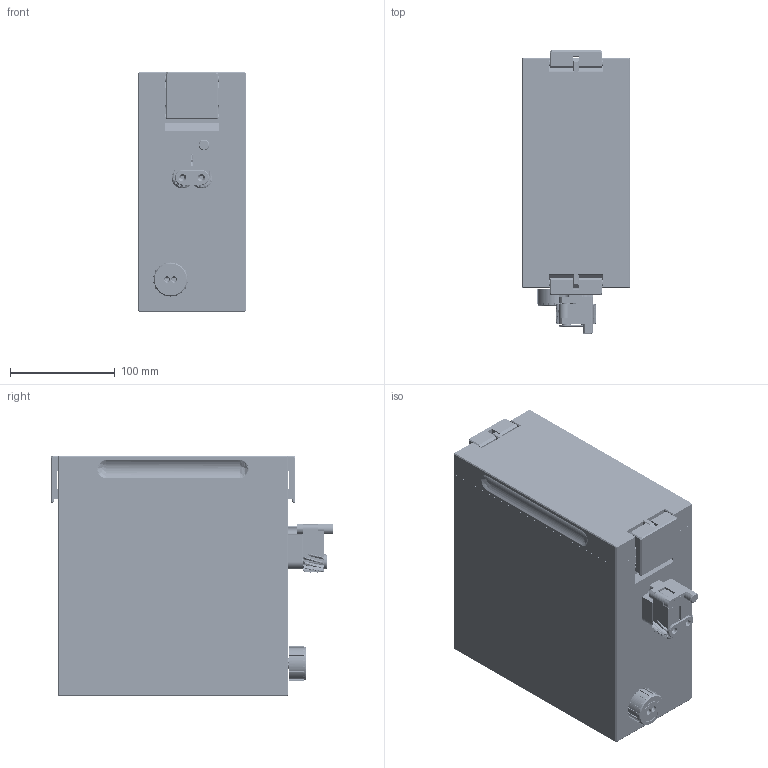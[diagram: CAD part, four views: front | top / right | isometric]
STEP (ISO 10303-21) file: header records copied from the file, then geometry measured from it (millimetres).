
FILE_DESCRIPTION(/* description */ (''),/* implementation_level */ '2;1');
FILE_NAME(/* name */ 'E:/Mihai/3D Printing/My Designs/Drikea filament box/Box v184.step',/* time_stamp */ '2021-08-17T12:55:25+03:00',/* author */ (''),/* organization */ (''),/* preprocessor_version */ 'ST-DEVELOPER v18.1',/* originating_system */ 'Autodesk Translation Framework v10.9.0.1377',/* authorisation */ '');
FILE_SCHEMA (('AUTOMOTIVE_DESIGN { 1 0 10303 214 3 1 1 }'));
Products named in the file (38): Box; Hinge; lid; Tee arm; Rollers; Pipeline; Box_1; base; lid_1; lid without hygrometer; Pipeline_1; Box(Mirror)(Mirror); base(Mirror)(Mirror); lid(Mirror)(Mirror); Pipeline_2; Box(Mirror) (1); base(Mirror) (1); lid(Mirror) (1); Pipeline_3; Box(Mirror); base(Mirror); lid(Mirror); Rollers(Mirror); Tee arm(Mirror); Lower rollers; rewind; valve; airlock left; airlock right; lock; Pipeline_4; Box_2; base_1; lid_2; Base_2; Hinge(Mirror); Festo_Pneumatic_Coupling_PC4-M10 v1; Label lines
Assembly tree (37 placements, depth 5):
  Box
    Hinge
    lid
      Tee arm
      Rollers
      Pipeline
        Box_1
          base
          lid_1
      lid without hygrometer
      Pipeline_1
        Box(Mirror)(Mirror)
          base(Mirror)(Mirror)
          lid(Mirror)(Mirror)
      Pipeline_2
        Box(Mirror) (1)
          base(Mirror) (1)
          lid(Mirror) (1)
      Pipeline_3
        Box(Mirror)
          base(Mirror)
          lid(Mirror)
      Rollers(Mirror)
      Tee arm(Mirror)
    Lower rollers
    rewind
    valve
      airlock left
      airlock right
      lock
    Pipeline_4
      Box_2
        base_1
        lid_2
    Base_2
    Hinge(Mirror)
    Festo_Pneumatic_Coupling_PC4-M10 v1
    Label lines
Bounding box: 103 x 270.32 x 229.15 mm (x, y, z)
Volume: 3733902.8 mm3; surface area: 1516016 mm2
Topology: 60 solids, 67 shells, 14949 faces, 43352 edges, 28547 vertices
Faces by surface type: plane 11614, bspline 2468, cylinder 565, cone 295, torus 7
Full cylindrical faces by diameter (mm): 2 x1, 2.8 x4, 3 x36, 3.4 x1, 3.5 x12, 3.6 x3, 3.8 x4, 4 x1, 5.1 x1, 5.4 x1, 6 x16, 6.1 x1, 6.3 x1, 7.636 x1, 7.8 x4, 8 x4, 8.3 x2, 8.6 x4, 9.1 x2, 9.828 x7, 10 x2, 11.18 x1, 12.8 x4, 13.6 x4, 14.2 x4, 14.25 x2, 15.4 x3, 15.6 x4, 16.2 x12, 16.6 x8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
Entity records: 552580 total; most frequent: CARTESIAN_POINT 167495, ORIENTED_EDGE 86694, DIRECTION 64783, EDGE_CURVE 43347, LINE 35733, VECTOR 35733, VERTEX_POINT 28547, EDGE_LOOP 18674
